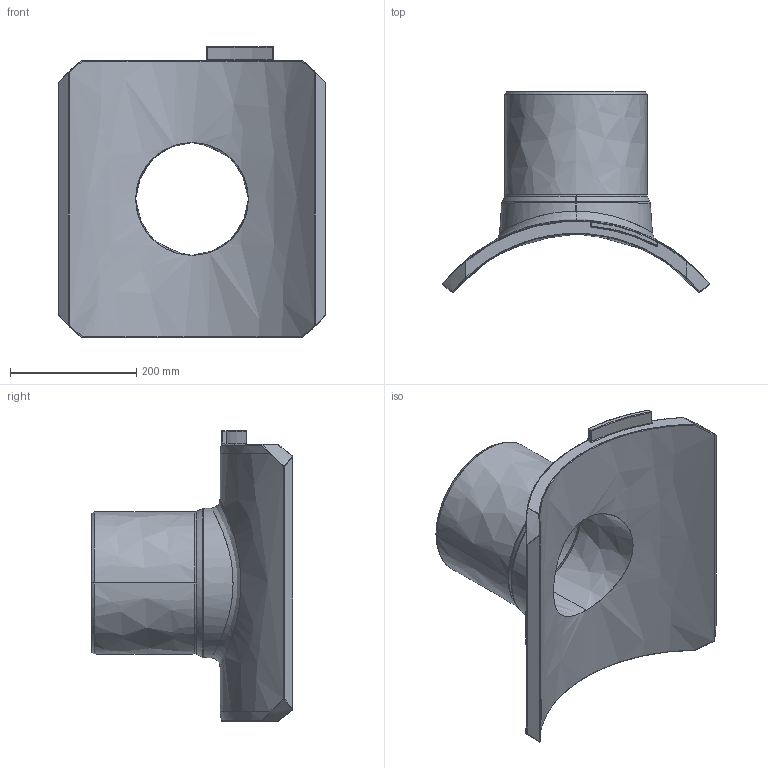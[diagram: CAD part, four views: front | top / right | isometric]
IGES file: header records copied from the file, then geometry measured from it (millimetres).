
Start section:  PTC IGES file: sa-uni_d500_225_01.igs
Global section: file name: sa-uni_d500_225_01.igs; native system: Creo Parametric by PTC Inc.; preprocessor: 2022124; author: mikulicp; organization: Unknown; date: 20240701.111527; units: millimetre
Bounding box: 422.59 x 318.63 x 460 mm (x, y, z)
Surface area: 672439.6 mm2 (no closed solid volume)
Topology: 0 solids, 0 shells, 235 faces, 1138 edges, 1138 vertices
Faces by surface type: bspline 235
